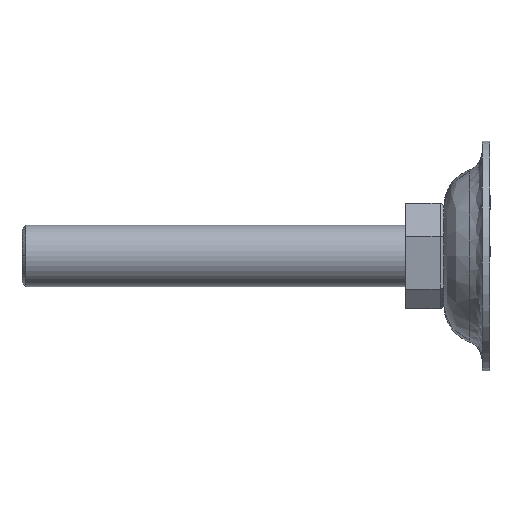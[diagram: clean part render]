
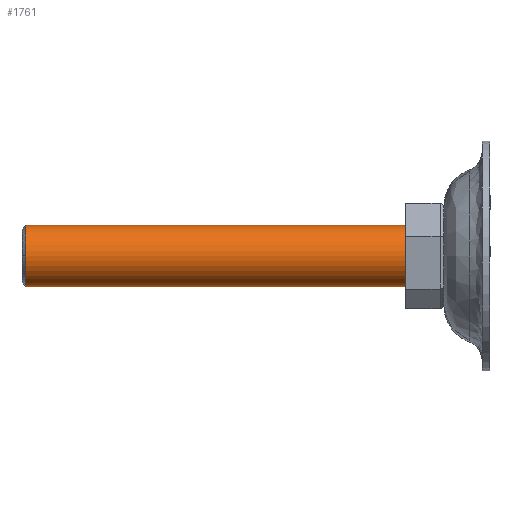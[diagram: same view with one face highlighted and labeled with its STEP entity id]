
A CAD part, left-side view. The second image highlights one B-rep face of the part: STEP entity #1761.
In plain terms, the highlighted cylindrical face has radius 8 mm (diameter 16 mm), a partial arc.
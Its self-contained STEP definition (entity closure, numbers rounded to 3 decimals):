
#66 = CYLINDRICAL_SURFACE ( 'NONE', #772, 8. ) ;
#71 = FACE_OUTER_BOUND ( 'NONE', #542, .T. ) ;
#92 = VECTOR ( 'NONE', #399, 1000. ) ;
#97 = VECTOR ( 'NONE', #405, 1000. ) ;
#98 = LINE ( 'NONE', #410, #97 ) ;
#99 = LINE ( 'NONE', #402, #92 ) ;
#204 = VERTEX_POINT ( 'NONE', #466 ) ;
#244 = VERTEX_POINT ( 'NONE', #452 ) ;
#252 = VERTEX_POINT ( 'NONE', #440 ) ;
#353 = CIRCLE ( 'NONE', #1655, 8. ) ;
#377 = CIRCLE ( 'NONE', #1653, 8. ) ;
#378 = CIRCLE ( 'NONE', #1656, 8. ) ;
#399 = DIRECTION ( 'NONE',  ( 0., -1., 0. ) ) ;
#402 = CARTESIAN_POINT ( 'NONE',  ( -15.263, 113.335, -8. ) ) ;
#405 = DIRECTION ( 'NONE',  ( 0., -1., 0. ) ) ;
#410 = CARTESIAN_POINT ( 'NONE',  ( -15.263, 113.335, 8. ) ) ;
#412 = CARTESIAN_POINT ( 'NONE',  ( -23.263, 112.335, 0. ) ) ;
#418 = CARTESIAN_POINT ( 'NONE',  ( -15.263, 112.335, -8. ) ) ;
#440 = CARTESIAN_POINT ( 'NONE',  ( -15.263, 13.335, 8. ) ) ;
#452 = CARTESIAN_POINT ( 'NONE',  ( -15.263, 112.335, 8. ) ) ;
#466 = CARTESIAN_POINT ( 'NONE',  ( -15.263, 13.335, -8. ) ) ;
#495 = ORIENTED_EDGE ( 'NONE', *, *, #702, .F. ) ;
#496 = ORIENTED_EDGE ( 'NONE', *, *, #709, .T. ) ;
#497 = ORIENTED_EDGE ( 'NONE', *, *, #712, .T. ) ;
#499 = ORIENTED_EDGE ( 'NONE', *, *, #705, .T. ) ;
#503 = ORIENTED_EDGE ( 'NONE', *, *, #713, .T. ) ;
#542 = EDGE_LOOP ( 'NONE', ( #495, #496, #497, #499, #503 ) ) ;
#585 = VERTEX_POINT ( 'NONE', #418 ) ;
#591 = VERTEX_POINT ( 'NONE', #412 ) ;
#702 = EDGE_CURVE ( 'NONE', #244, #252, #98, .T. ) ;
#705 = EDGE_CURVE ( 'NONE', #585, #204, #99, .T. ) ;
#709 = EDGE_CURVE ( 'NONE', #244, #591, #377, .T. ) ;
#712 = EDGE_CURVE ( 'NONE', #591, #585, #353, .T. ) ;
#713 = EDGE_CURVE ( 'NONE', #204, #252, #378, .T. ) ;
#772 = AXIS2_PLACEMENT_3D ( 'NONE', #896, #895, #891 ) ;
#891 = DIRECTION ( 'NONE',  ( 0., 0., -1. ) ) ;
#895 = DIRECTION ( 'NONE',  ( 0., -1., 0. ) ) ;
#896 = CARTESIAN_POINT ( 'NONE',  ( -15.263, 113.335, 0. ) ) ;
#1538 = DIRECTION ( 'NONE',  ( 0., 0., -1. ) ) ;
#1539 = DIRECTION ( 'NONE',  ( 0., -1., 0. ) ) ;
#1542 = CARTESIAN_POINT ( 'NONE',  ( -15.263, 112.335, 0. ) ) ;
#1565 = DIRECTION ( 'NONE',  ( 0., 0., -1. ) ) ;
#1567 = DIRECTION ( 'NONE',  ( 0., 1., 0. ) ) ;
#1568 = CARTESIAN_POINT ( 'NONE',  ( -15.263, 13.335, 0. ) ) ;
#1571 = DIRECTION ( 'NONE',  ( 0., 0., -1. ) ) ;
#1573 = DIRECTION ( 'NONE',  ( 0., -1., 0. ) ) ;
#1574 = CARTESIAN_POINT ( 'NONE',  ( -15.263, 112.335, 0. ) ) ;
#1653 = AXIS2_PLACEMENT_3D ( 'NONE', #1542, #1539, #1538 ) ;
#1655 = AXIS2_PLACEMENT_3D ( 'NONE', #1574, #1573, #1571 ) ;
#1656 = AXIS2_PLACEMENT_3D ( 'NONE', #1568, #1567, #1565 ) ;
#1761 = ADVANCED_FACE ( 'NONE', ( #71 ), #66, .T. ) ;
